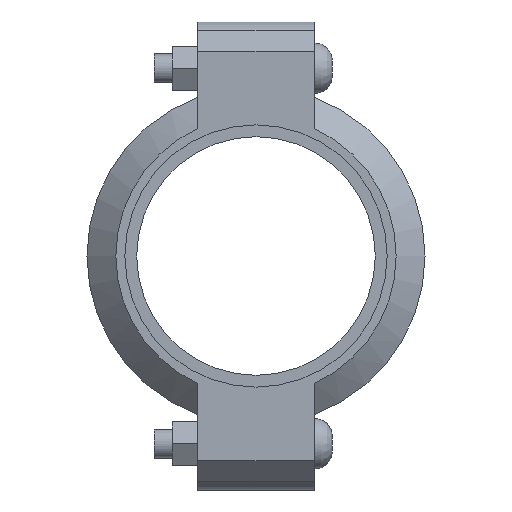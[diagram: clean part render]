
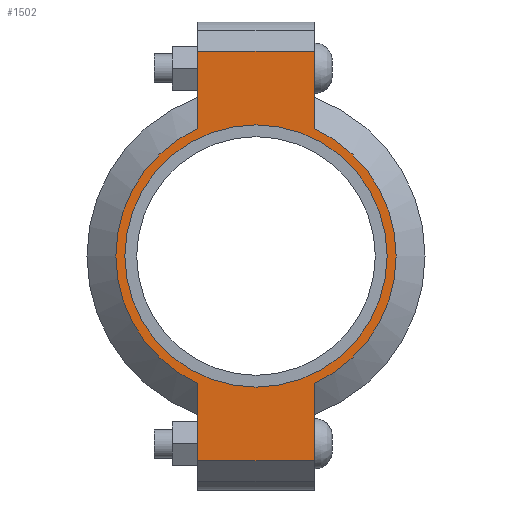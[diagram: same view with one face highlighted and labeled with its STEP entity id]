
A CAD part, left-side view. The second image highlights one B-rep face of the part: STEP entity #1502.
In plain terms, the highlighted planar face has unit normal (-1, 0, 0) as drawn and (0, 0, 1) by its records, which use the part's own axes.
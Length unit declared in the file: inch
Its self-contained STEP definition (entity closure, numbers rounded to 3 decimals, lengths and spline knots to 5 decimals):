
#126=LINE('',#2621,#219);
#134=LINE('',#2657,#227);
#141=LINE('',#2678,#234);
#150=LINE('',#2710,#243);
#151=LINE('',#2714,#244);
#152=LINE('',#2716,#245);
#219=VECTOR('',#2145,0.3937);
#227=VECTOR('',#2161,0.3937);
#234=VECTOR('',#2180,0.3937);
#243=VECTOR('',#2205,0.3937);
#244=VECTOR('',#2210,0.3937);
#245=VECTOR('',#2211,0.3937);
#301=FACE_BOUND('',#479,.T.);
#373=FACE_OUTER_BOUND('',#478,.T.);
#478=EDGE_LOOP('',(#1243,#1244,#1245,#1246,#1247,#1248,#1249,#1250));
#479=EDGE_LOOP('',(#1251));
#551=CIRCLE('',#1721,2.25);
#577=CIRCLE('',#1780,2.405);
#578=CIRCLE('',#1781,2.405);
#643=VERTEX_POINT('',#2437);
#686=VERTEX_POINT('',#2618);
#687=VERTEX_POINT('',#2620);
#698=VERTEX_POINT('',#2652);
#699=VERTEX_POINT('',#2656);
#706=VERTEX_POINT('',#2675);
#707=VERTEX_POINT('',#2677);
#717=VERTEX_POINT('',#2713);
#718=VERTEX_POINT('',#2715);
#799=EDGE_CURVE('',#643,#643,#551,.T.);
#860=EDGE_CURVE('',#687,#686,#126,.T.);
#874=EDGE_CURVE('',#699,#698,#134,.T.);
#884=EDGE_CURVE('',#707,#706,#141,.T.);
#899=EDGE_CURVE('',#699,#686,#150,.T.);
#900=EDGE_CURVE('',#698,#707,#577,.T.);
#901=EDGE_CURVE('',#717,#706,#151,.T.);
#902=EDGE_CURVE('',#717,#718,#152,.T.);
#903=EDGE_CURVE('',#718,#687,#578,.T.);
#1243=ORIENTED_EDGE('',*,*,#899,.F.);
#1244=ORIENTED_EDGE('',*,*,#874,.T.);
#1245=ORIENTED_EDGE('',*,*,#900,.T.);
#1246=ORIENTED_EDGE('',*,*,#884,.T.);
#1247=ORIENTED_EDGE('',*,*,#901,.F.);
#1248=ORIENTED_EDGE('',*,*,#902,.T.);
#1249=ORIENTED_EDGE('',*,*,#903,.T.);
#1250=ORIENTED_EDGE('',*,*,#860,.T.);
#1251=ORIENTED_EDGE('',*,*,#799,.T.);
#1344=PLANE('',#1779);
#1502=ADVANCED_FACE('',(#373,#301),#1344,.T.);
#1721=AXIS2_PLACEMENT_3D('',#2439,#2021,#2022);
#1779=AXIS2_PLACEMENT_3D('',#2711,#2206,#2207);
#1780=AXIS2_PLACEMENT_3D('',#2712,#2208,#2209);
#1781=AXIS2_PLACEMENT_3D('',#2717,#2212,#2213);
#2021=DIRECTION('center_axis',(0.,0.,-1.));
#2022=DIRECTION('ref_axis',(-1.,0.,0.));
#2145=DIRECTION('',(-1.,0.,0.));
#2161=DIRECTION('',(1.,0.,0.));
#2180=DIRECTION('',(1.,0.,0.));
#2205=DIRECTION('',(0.,1.,0.));
#2206=DIRECTION('center_axis',(0.,0.,1.));
#2207=DIRECTION('ref_axis',(1.,0.,0.));
#2208=DIRECTION('center_axis',(0.,0.,1.));
#2209=DIRECTION('ref_axis',(-1.,0.,0.));
#2210=DIRECTION('',(0.,-1.,0.));
#2211=DIRECTION('',(-1.,0.,0.));
#2212=DIRECTION('center_axis',(0.,0.,1.));
#2213=DIRECTION('ref_axis',(-1.,0.,0.));
#2437=CARTESIAN_POINT('',(2.25,0.,1.065));
#2439=CARTESIAN_POINT('Origin',(0.,0.,1.065));
#2618=CARTESIAN_POINT('',(-3.515,1.,1.065));
#2620=CARTESIAN_POINT('',(-2.18724,1.,1.065));
#2621=CARTESIAN_POINT('',(-4.015,1.,1.065));
#2652=CARTESIAN_POINT('',(-2.18724,-1.,1.065));
#2656=CARTESIAN_POINT('',(-3.515,-1.,1.065));
#2657=CARTESIAN_POINT('',(4.015,-1.,1.065));
#2675=CARTESIAN_POINT('',(3.515,-1.,1.065));
#2677=CARTESIAN_POINT('',(2.18724,-1.,1.065));
#2678=CARTESIAN_POINT('',(4.015,-1.,1.065));
#2710=CARTESIAN_POINT('',(-3.515,0.5,1.065));
#2711=CARTESIAN_POINT('Origin',(0.,0.,1.065));
#2712=CARTESIAN_POINT('Origin',(0.,0.,1.065));
#2713=CARTESIAN_POINT('',(3.515,1.,1.065));
#2714=CARTESIAN_POINT('',(3.515,-0.5,1.065));
#2715=CARTESIAN_POINT('',(2.18724,1.,1.065));
#2716=CARTESIAN_POINT('',(-4.015,1.,1.065));
#2717=CARTESIAN_POINT('Origin',(0.,0.,1.065));
